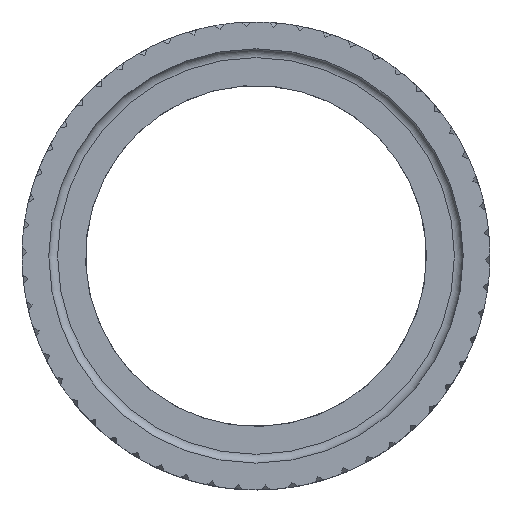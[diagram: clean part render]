
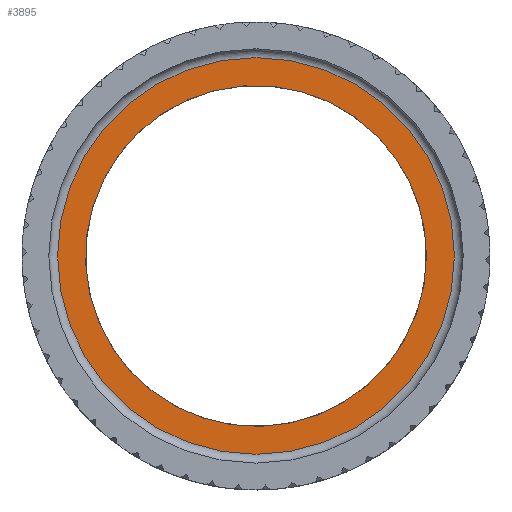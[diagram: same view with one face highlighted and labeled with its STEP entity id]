
A CAD part, top view. The second image highlights one B-rep face of the part: STEP entity #3895.
In plain terms, the highlighted planar face has unit normal (0, 0, 1).
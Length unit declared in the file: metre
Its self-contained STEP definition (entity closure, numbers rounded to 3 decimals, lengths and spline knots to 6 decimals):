
#776=ORIENTED_EDGE('',*,*,#2112,.T.);
#777=ORIENTED_EDGE('',*,*,#2113,.T.);
#2112=EDGE_CURVE('',#2780,#2780,#3228,.F.);
#2113=EDGE_CURVE('',#2781,#2781,#3229,.T.);
#2780=VERTEX_POINT('',#4781);
#2781=VERTEX_POINT('',#4783);
#3228=CIRCLE('',#4139,0.03375);
#3229=CIRCLE('',#4140,0.029);
#3346=EDGE_LOOP('',(#776));
#3347=EDGE_LOOP('',(#777));
#3586=FACE_BOUND('',#3346,.T.);
#3587=FACE_BOUND('',#3347,.T.);
#3826=PLANE('',#4138);
#3895=ADVANCED_FACE('',(#3586,#3587),#3826,.F.);
#4138=AXIS2_PLACEMENT_3D('',#4779,#4335,#4336);
#4139=AXIS2_PLACEMENT_3D('',#4780,#4337,#4338);
#4140=AXIS2_PLACEMENT_3D('',#4782,#4339,#4340);
#4335=DIRECTION('',(0.,0.,-1.));
#4336=DIRECTION('',(0.819,0.574,0.));
#4337=DIRECTION('',(0.,0.,-1.));
#4338=DIRECTION('',(1.,0.,0.));
#4339=DIRECTION('',(0.,0.,-1.));
#4340=DIRECTION('',(1.,0.,0.));
#4779=CARTESIAN_POINT('',(0.,0.,0.0748));
#4780=CARTESIAN_POINT('',(0.,0.,0.0748));
#4781=CARTESIAN_POINT('',(0.03375,0.,0.0748));
#4782=CARTESIAN_POINT('',(0.,0.,0.0748));
#4783=CARTESIAN_POINT('',(0.029,0.,0.0748));
